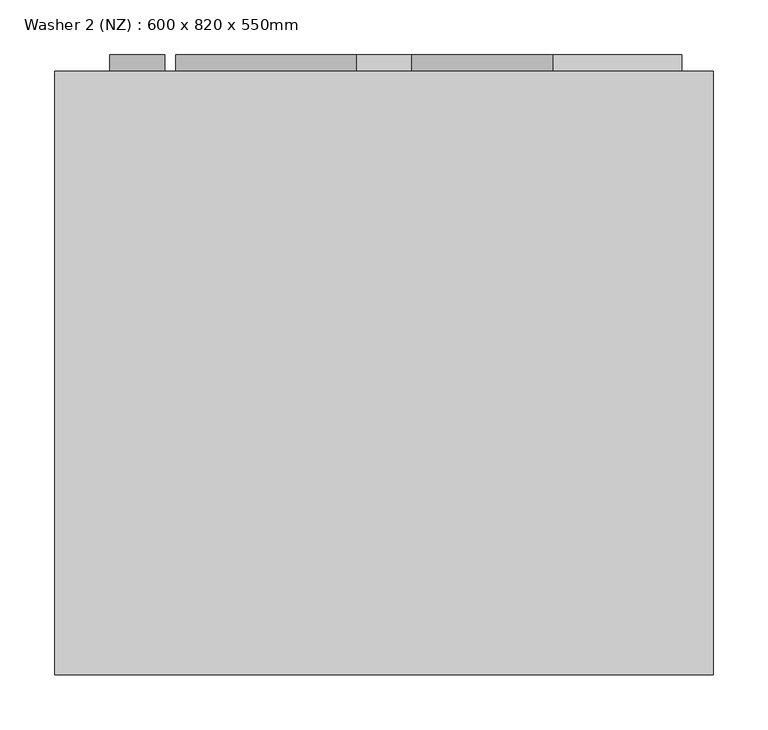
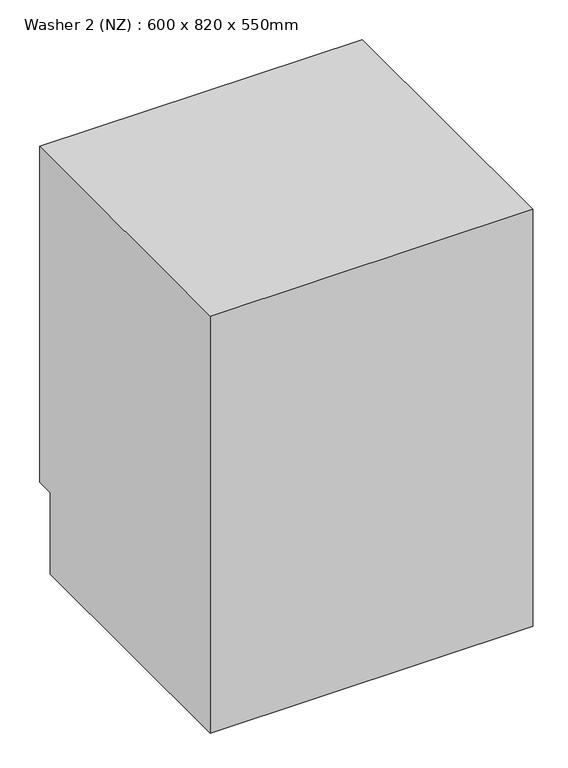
"""IFC4 building model written with IfcOpenShell, lengths in millimetres: proxy geometry, Washer 2 (NZ) : 600 x 820 x 550mm."""

import ifcopenshell
import ifcopenshell.guid

model = None  # the IFC model being written
_history = None  # IfcOwnerHistory: only IFC2X3 demands one
_inside = {}  # id of a spatial element -> (the spatial element, [elements in it])
_under = {}  # id of a project, library or spatial element -> (it, [spatial elements below it])
_declared = {}  # id of a project -> (the project, [libraries it declares])
_typed = {}  # id of a type object -> (the type object, [elements of that type])
_made_of = {}  # id of a material, layer set ... -> (it, [elements and type objects made of it])


def new_model(schema):
    """Start an empty IFC model of exactly this schema.

    Asked for "IFC4X3", IfcOpenShell would pick the latest addendum, in which some entities
    have other attributes; the version numbers below select the first issue.
    IFC2X3 requires an IfcOwnerHistory on every rooted entity: one is made here for all.
    """
    global model, _history
    if schema == "IFC4X3":
        model = ifcopenshell.file(schema_version=(4, 3, 0, 0))
    else:
        model = ifcopenshell.file(schema=schema)
    _inside.clear()
    _under.clear()
    _declared.clear()
    _typed.clear()
    _made_of.clear()
    _history = None
    if model.schema == "IFC2X3":
        org = make("IfcOrganization", Name="unknown")
        user = make(
            "IfcPersonAndOrganization",
            ThePerson=make("IfcPerson", FamilyName="unknown"),
            TheOrganization=org,
        )
        app = make(
            "IfcApplication",
            ApplicationDeveloper=org,
            Version="unknown",
            ApplicationFullName="unknown",
            ApplicationIdentifier="unknown",
        )
        _history = make(
            "IfcOwnerHistory",
            OwningUser=user,
            OwningApplication=app,
            ChangeAction="ADDED",
            CreationDate=0,
        )
    return model


def make(cls, **values):
    """One entity of the class cls with the attributes given. An attribute that is None is left unset."""
    return model.create_entity(
        cls, **{name: value for name, value in values.items() if value is not None}
    )


def rooted(cls, **values):
    """An entity with a GlobalId (a new one), such as an element, a storey or a relation."""
    return make(cls, GlobalId=ifcopenshell.guid.new(), OwnerHistory=_history, **values)


def si_unit(unit_type, name, prefix=None):
    """IfcSIUnit, for example si_unit("LENGTHUNIT", "METRE", prefix="MILLI")."""
    return make("IfcSIUnit", UnitType=unit_type, Prefix=prefix, Name=name)


def assignment(units):
    """IfcUnitAssignment: the units of a project."""
    return None if units is None else make("IfcUnitAssignment", Units=units)


def point(xyz):
    """IfcCartesianPoint."""
    return None if xyz is None else make("IfcCartesianPoint", Coordinates=xyz)


def direction(xyz):
    """IfcDirection."""
    return None if xyz is None else make("IfcDirection", DirectionRatios=xyz)


def frame(location, z_axis=None, x_axis=None):
    """IfcAxis2Placement3D, a coordinate frame: its origin and axes. An axis left out is left unset."""
    return make(
        "IfcAxis2Placement3D",
        Location=point(location),
        Axis=direction(z_axis),
        RefDirection=direction(x_axis),
    )


def frame_2d(location, x_axis=None):
    """IfcAxis2Placement2D, a coordinate frame in the plane: its origin and x axis."""
    return make(
        "IfcAxis2Placement2D", Location=point(location), RefDirection=direction(x_axis)
    )


def origin():
    """The frame at (0, 0, 0) with its axes left unset."""
    return frame((0.0, 0.0, 0.0))


def place(relative_to, where):
    """IfcLocalPlacement: puts the frame where relative to a parent placement (None: the world)."""
    return make(
        "IfcLocalPlacement", PlacementRelTo=relative_to, RelativePlacement=where
    )


def context(
    kind, dimensions, precision=None, world=None, true_north=None, identifier=None
):
    """IfcGeometricRepresentationContext, for example the 3D "Model" context."""
    return make(
        "IfcGeometricRepresentationContext",
        ContextIdentifier=identifier,
        ContextType=kind,
        CoordinateSpaceDimension=dimensions,
        Precision=precision,
        WorldCoordinateSystem=world,
        TrueNorth=true_north,
    )


def project(units=None, contexts=None):
    """IfcProject with its units and contexts."""
    return rooted(
        "IfcProject",
        Name="project",
        RepresentationContexts=contexts,
        UnitsInContext=assignment(units),
    )


def spatial(cls, under=None, at=None, **own):
    """A site, building, storey or space (cls), placed at a placement, below another one or the project."""
    s = rooted(cls, ObjectPlacement=at, **own)
    if under is not None:
        _under.setdefault(under.id(), (under, []))[1].append(s)
    return s


def polyline(points):
    """IfcPolyline through the points."""
    return make("IfcPolyline", Points=[point(p) for p in points])


def circle_curve(where, radius):
    """IfcCircle in the frame where."""
    return make("IfcCircle", Position=where, Radius=radius)


def trimmed(basis, trim1, trim2, sense, master):
    """IfcTrimmedCurve: the piece of a basis curve between two trims."""
    return make(
        "IfcTrimmedCurve",
        BasisCurve=basis,
        Trim1=trim1,
        Trim2=trim2,
        SenseAgreement=sense,
        MasterRepresentation=master,
    )


def segment(curve, same_sense, transition):
    """IfcCompositeCurveSegment."""
    return make(
        "IfcCompositeCurveSegment",
        Transition=transition,
        SameSense=same_sense,
        ParentCurve=curve,
    )


def composite_curve(segments, self_intersect=None):
    """IfcCompositeCurve: segments joined end to end."""
    return make("IfcCompositeCurve", Segments=segments, SelfIntersect=self_intersect)


def outline(outer, holes=None, kind="AREA"):
    """IfcArbitraryClosedProfileDef: a profile drawn as a closed curve; with holes, ...WithVoids."""
    if holes is None:
        return make("IfcArbitraryClosedProfileDef", ProfileType=kind, OuterCurve=outer)
    return make(
        "IfcArbitraryProfileDefWithVoids",
        ProfileType=kind,
        OuterCurve=outer,
        InnerCurves=holes,
    )


def extrude(swept, where, along, depth):
    """IfcExtrudedAreaSolid: the profile swept, set in the frame where, extruded along a direction by depth."""
    return make(
        "IfcExtrudedAreaSolid",
        SweptArea=swept,
        Position=where,
        ExtrudedDirection=direction(along),
        Depth=depth,
    )


def shape(context_of_items, identifier, shape_type, items):
    """IfcShapeRepresentation: the items that make up one representation, for example the "Body"."""
    return make(
        "IfcShapeRepresentation",
        ContextOfItems=context_of_items,
        RepresentationIdentifier=identifier,
        RepresentationType=shape_type,
        Items=items,
    )


def source(mapping_origin, context_of_items, identifier, shape_type, items):
    """IfcRepresentationMap: a shape defined once, which mapped items show again and again."""
    return make(
        "IfcRepresentationMap",
        MappingOrigin=mapping_origin,
        MappedRepresentation=shape(context_of_items, identifier, shape_type, items),
    )


def transform(
    local_origin,
    x_axis=None,
    y_axis=None,
    z_axis=None,
    scale=None,
    scale2=None,
    scale3=None,
    uniform=True,
):
    """IfcCartesianTransformationOperator3D, or its non-uniform kind. x_axis, y_axis, z_axis: its Axis1, 2, 3."""
    if uniform:
        return make(
            "IfcCartesianTransformationOperator3D",
            Axis1=direction(x_axis),
            Axis2=direction(y_axis),
            LocalOrigin=point(local_origin),
            Scale=scale,
            Axis3=direction(z_axis),
        )
    return make(
        "IfcCartesianTransformationOperator3DnonUniform",
        Axis1=direction(x_axis),
        Axis2=direction(y_axis),
        LocalOrigin=point(local_origin),
        Scale=scale,
        Axis3=direction(z_axis),
        Scale2=scale2,
        Scale3=scale3,
    )


def mapped(mapping_source, mapping_target):
    """IfcMappedItem: shows the shape of a source again, moved by a transform."""
    return make(
        "IfcMappedItem", MappingSource=mapping_source, MappingTarget=mapping_target
    )


def made_of(thing, what):
    """Note that an element or type object is made of a material, layer set ...; save() writes the relation."""
    if what is not None:
        _made_of.setdefault(what.id(), (what, []))[1].append(thing)
    return thing


def element(
    cls,
    number,
    at=None,
    inside=None,
    cuts=None,
    type_object=None,
    material=None,
    context=None,
    identifier="Body",
    shape_type=None,
    held_by="IfcProductDefinitionShape",
    body=None,
    shapes=None,
    **own,
):
    """One element of the class cls, such as IfcWall. Its Tag is "e" and its number.

    at: its placement. inside: the storey or other place that contains it. cuts: it is an
    opening in that element (IfcRelVoidsElement). A single representation is given by context,
    identifier, shape_type and body (its items); several are given by shapes. held_by: the class
    of the entity that holds the representations. save() writes the other relations.
    """
    e = rooted(cls, Tag="e%d" % number, ObjectPlacement=at, **own)
    if body is not None:
        shapes = [shape(context, identifier, shape_type, body)]
    if shapes is not None:
        e.Representation = make(held_by, Representations=shapes)
    if inside is not None:
        _inside.setdefault(inside.id(), (inside, []))[1].append(e)
    if cuts is not None:
        rooted(
            "IfcRelVoidsElement", RelatingBuildingElement=cuts, RelatedOpeningElement=e
        )
    if type_object is not None:
        _typed.setdefault(type_object.id(), (type_object, []))[1].append(e)
    return made_of(e, material)


def aggregate(whole, parts):
    """IfcRelAggregates: a whole, such as a stair, and the parts it consists of."""
    return rooted("IfcRelAggregates", RelatingObject=whole, RelatedObjects=parts)


def save(model, path):
    """Write the relations noted so far, then the file.

    IfcRelAggregates (storeys below a building ...), IfcRelContainedInSpatialStructure (elements
    in a storey), IfcRelDefinesByType, IfcRelAssociatesMaterial and IfcRelDeclares: one each for
    every whole, place, type object, material and project.
    """
    for whole, parts in _under.values():
        aggregate(whole, parts)
    for where, things in _inside.values():
        rooted(
            "IfcRelContainedInSpatialStructure",
            RelatedElements=things,
            RelatingStructure=where,
        )
    for kind, things in _typed.values():
        rooted("IfcRelDefinesByType", RelatedObjects=things, RelatingType=kind)
    for what, things in _made_of.values():
        rooted("IfcRelAssociatesMaterial", RelatedObjects=things, RelatingMaterial=what)
    for by, libraries in _declared.values():
        rooted("IfcRelDeclares", RelatingContext=by, RelatedDefinitions=libraries)
    model.write(path)


def plane_surface(at):
    """IfcPlane: the flat surface through the origin of the frame at, square to its z axis."""
    return make("IfcPlane", Position=at)


def revolved_surface(curve, axis_point, axis_direction):
    """IfcSurfaceOfRevolution: the curve turned about the line through axis_point along axis_direction."""
    return make(
        "IfcSurfaceOfRevolution",
        SweptCurve=make("IfcArbitraryOpenProfileDef", ProfileType="CURVE", Curve=curve),
        AxisPosition=make("IfcAxis1Placement", Location=point(axis_point), Axis=direction(axis_direction)),
    )


def advanced_brep(points, edges, surfaces, faces):
    """IfcAdvancedBrep: a solid bounded by faces that lie on surfaces and meet in shared edges.

    An edge is (start, end): straight between two places in points (the first is 0);
    or (start, end, curve); or (start, end, curve, False) where it runs against its curve.
    A face is (place in surfaces, loops), or (place, loops, False) where it looks against
    its surface's normal. A loop lists edges by number (the first is 1), with a minus sign
    where the edge is run from its end to its start. The first loop is the outer one.
    """
    corners = [point(p) for p in points]
    vertices = [make("IfcVertexPoint", VertexGeometry=c) for c in corners]
    made = []
    for start, end, *more in edges:
        made.append(
            make(
                "IfcEdgeCurve",
                EdgeStart=vertices[start],
                EdgeEnd=vertices[end],
                EdgeGeometry=more[0] if more else make("IfcPolyline", Points=[corners[start], corners[end]]),
                SameSense=more[1] if len(more) > 1 else True,
            )
        )
    hull = []
    for where, loops, *sense in faces:
        bounds = []
        for j, loop in enumerate(loops):
            ring = [make("IfcOrientedEdge", EdgeElement=made[abs(k) - 1], Orientation=k > 0) for k in loop]
            bounds.append(
                make(
                    "IfcFaceOuterBound" if j == 0 else "IfcFaceBound",
                    Bound=make("IfcEdgeLoop", EdgeList=ring),
                    Orientation=True,
                )
            )
        hull.append(make("IfcAdvancedFace", Bounds=bounds, FaceSurface=surfaces[where], SameSense=sense[0] if sense else True))
    return make("IfcAdvancedBrep", Outer=make("IfcClosedShell", CfsFaces=hull))


def washer_2_nz_600_x_820_x_550mm_c1fca6b6(model_context):
    return source(origin(), model_context, "Body", "SolidModel", [
        advanced_brep(
        [(-451.3135585, 200.0, 0.0), (-451.3135585, 200.0, 820.0), (-451.3135585, 750.0, 820.0), (-451.3135585, 750.0, 160.0), (-451.3135585, 715.0, 160.0), (-451.3135585, 715.0, 0.0), (148.6864415, 200.0, 0.0), (148.6864415, 715.0, 0.0), (148.6864415, 715.0, 160.0), (148.6864415, 750.0, 160.0), (148.6864415, 750.0, 820.0), (148.6864415, 200.0, 820.0), (-11.3135585, 750.0, 440.0), (-291.3135585, 750.0, 440.0), (-11.3135585, 500.0, 440.0), (-291.3135585, 500.0, 440.0)],
        [
            (0, 1),
            (1, 2),
            (2, 3),
            (3, 4),
            (4, 5),
            (5, 0),
            (6, 7),
            (7, 8),
            (8, 9),
            (9, 10),
            (10, 11),
            (11, 6),
            (0, 6),
            (11, 1),
            (10, 2),
            (9, 3),
            (12, 13, circle_curve(frame((-151.3135585, 750.0, 440.0), z_axis=(0.0, -1.0, 0.0), x_axis=(-1.0, 0.0, 0.0)), 140.0)),
            (13, 12, circle_curve(frame((-151.3135585, 750.0, 440.0), z_axis=(0.0, -1.0, 0.0), x_axis=(-1.0, 0.0, 0.0)), 140.0)),
            (8, 4),
            (7, 5),
            (14, 15, circle_curve(frame((-151.3135585, 500.0, 440.0), z_axis=(0.0, 1.0, 0.0), x_axis=(-1.0, 0.0, 0.0)), 140.0)),
            (15, 14, circle_curve(frame((-151.3135585, 500.0, 440.0), z_axis=(0.0, 1.0, 0.0), x_axis=(-1.0, 0.0, 0.0)), 140.0)),
            (15, 13),
            (12, 14),
        ],
        [
            plane_surface(frame((-451.3135585, 200.0, 820.0), z_axis=(-1.0, 0.0, 0.0), x_axis=(0.0, 0.0, 1.0))),
            plane_surface(frame((148.6864415, 200.0, 820.0), z_axis=(1.0, 0.0, 0.0), x_axis=(0.0, 0.0, -1.0))),
            plane_surface(frame((-451.3135585, 200.0, 0.0), z_axis=(0.0, -1.0, 0.0), x_axis=(1.0, 0.0, 0.0))),
            plane_surface(frame((-451.3135585, 200.0, 820.0), z_axis=(0.0, 0.0, 1.0), x_axis=(1.0, 0.0, 0.0))),
            plane_surface(frame((-451.3135585, 750.0, 820.0), z_axis=(0.0, 1.0, 0.0), x_axis=(1.0, 0.0, 0.0))),
            plane_surface(frame((-451.3135585, 750.0, 160.0), z_axis=(0.0, 0.0, -1.0), x_axis=(1.0, 0.0, 0.0))),
            plane_surface(frame((-451.3135585, 715.0, 160.0), z_axis=(0.0, 1.0, 0.0), x_axis=(1.0, 0.0, 0.0))),
            plane_surface(frame((-451.3135585, 715.0, 0.0), z_axis=(0.0, 0.0, -1.0), x_axis=(1.0, 0.0, 0.0))),
            plane_surface(frame((-291.3135585, 500.0, 440.0), z_axis=(0.0, 1.0, 0.0), x_axis=(0.0, 0.0, -1.0))),
            revolved_surface(polyline([(-291.3135585, 500.0, 440.0), (-291.3135585, 750.0, 440.0)]), (-151.3135585, 750.0, 440.0), (0.0, -1.0, 0.0)),
        ],
        [
            (0, [[1, 2, 3, 4, 5, 6]]),
            (1, [[7, 8, 9, 10, 11, 12]]),
            (2, [[-1, 13, -12, 14]]),
            (3, [[-2, -14, -11, 15]]),
            (4, [[-3, -15, -10, 16], [17, 18]]),
            (5, [[-4, -16, -9, 19]]),
            (6, [[-5, -19, -8, 20]]),
            (7, [[-6, -20, -7, -13]]),
            (8, [[21, 22]]),
            (9, [[-22, 23, -17, 24]]),
            (9, [[-21, -24, -18, -23]]),
        ],
    ),
        extrude(outline(composite_curve([segment(trimmed(circle_curve(frame_2d((440.0, -151.3135585)), 140.0), [point((440.0, -291.3135585))], [point((440.0, -11.3135585))], False, "CARTESIAN"), True, "CONTINUOUS"), segment(trimmed(circle_curve(frame_2d((440.0, -151.3135585)), 140.0), [point((440.0, -11.3135585))], [point((440.0, -291.3135585))], False, "CARTESIAN"), True, "CONTINUOUS")], self_intersect=False)), frame((0.0, 750.0, 0.0), z_axis=(0.0, 1.0, 0.0), x_axis=(0.0, 0.0, 1.0)), (0.0, 0.0, 1.0), 15.0),
        extrude(outline(composite_curve([segment(trimmed(circle_curve(frame_2d((440.0, -151.3135585)), 190.0), [point((440.0, -341.3135585))], [point((440.0, 38.6864415))], False, "CARTESIAN"), True, "CONTINUOUS"), segment(trimmed(circle_curve(frame_2d((440.0, -151.3135585)), 190.0), [point((440.0, 38.6864415))], [point((440.0, -341.3135585))], False, "CARTESIAN"), True, "CONTINUOUS")], self_intersect=False), holes=[composite_curve([segment(trimmed(circle_curve(frame_2d((440.0, -151.3135585)), 140.0), [point((440.0, -291.3135585))], [point((440.0, -11.3135585))], True, "CARTESIAN"), True, "CONTINUOUS"), segment(trimmed(circle_curve(frame_2d((440.0, -151.3135585)), 140.0), [point((440.0, -11.3135585))], [point((440.0, -291.3135585))], True, "CARTESIAN"), True, "CONTINUOUS")], self_intersect=False)]), frame((0.0, 750.0, 0.0), z_axis=(0.0, 1.0, 0.0), x_axis=(0.0, 0.0, 1.0)), (0.0, 0.0, 1.0), 15.0),
        extrude(outline(composite_curve([segment(trimmed(circle_curve(frame_2d((761.0845617, -376.3135585)), 25.0), [point((761.0845617, -401.3135585))], [point((761.0845617, -351.3135585))], False, "CARTESIAN"), True, "CONTINUOUS"), segment(trimmed(circle_curve(frame_2d((761.0845617, -376.3135585)), 25.0), [point((761.0845617, -351.3135585))], [point((761.0845617, -401.3135585))], False, "CARTESIAN"), True, "CONTINUOUS")], self_intersect=False)), frame((0.0, 750.0, 0.0), z_axis=(0.0, 1.0, 0.0), x_axis=(0.0, 0.0, 1.0)), (0.0, 0.0, 1.0), 15.0),
        extrude(outline(polyline([(3.1591715, 765.0), (119.995263, 765.0), (119.995263, 750.0), (3.1591715, 750.0), (3.1591715, 765.0)])), frame((0.0, 0.0, 736.0845617), z_axis=(0.0, 0.0, 1.0), x_axis=(1.0, 0.0, 0.0)), (0.0, 0.0, 1.0), 25.0),
        extrude(outline(polyline([(-176.3135585, 765.0), (-126.3135585, 765.0), (-126.3135585, 750.0), (-176.3135585, 750.0), (-176.3135585, 765.0)])), frame((0.0, 0.0, 741.0845617), z_axis=(0.0, 0.0, 1.0), x_axis=(1.0, 0.0, 0.0)), (0.0, 0.0, 1.0), 40.0),
    ])


if __name__ == "__main__":
    model = new_model("IFC4")
    model_context = context("Model", 3, world=origin())
    ifc_project = project(units=[si_unit("LENGTHUNIT", "METRE", prefix="MILLI")], contexts=[model_context])
    site = spatial("IfcSite", under=ifc_project)
    building = spatial("IfcBuilding", under=site)
    placement = place(None, origin())
    washer_2_nz_600_x_820_x_550mm_shape = washer_2_nz_600_x_820_x_550mm_c1fca6b6(model_context)
    element("IfcBuildingElementProxy", 1, Name="Washer 2 (NZ) : 600 x 820 x 550mm", ObjectType="Washer 2 (NZ) : 600 x 820 x 550mm", at=placement, inside=building, context=model_context, shape_type="MappedRepresentation", body=[
        mapped(washer_2_nz_600_x_820_x_550mm_shape, transform((0.0, 0.0, 0.0), x_axis=(1.0, 0.0, 0.0), y_axis=(0.0, 1.0, 0.0), z_axis=(0.0, 0.0, 1.0))),
    ])
    save(model, "model.ifc")
